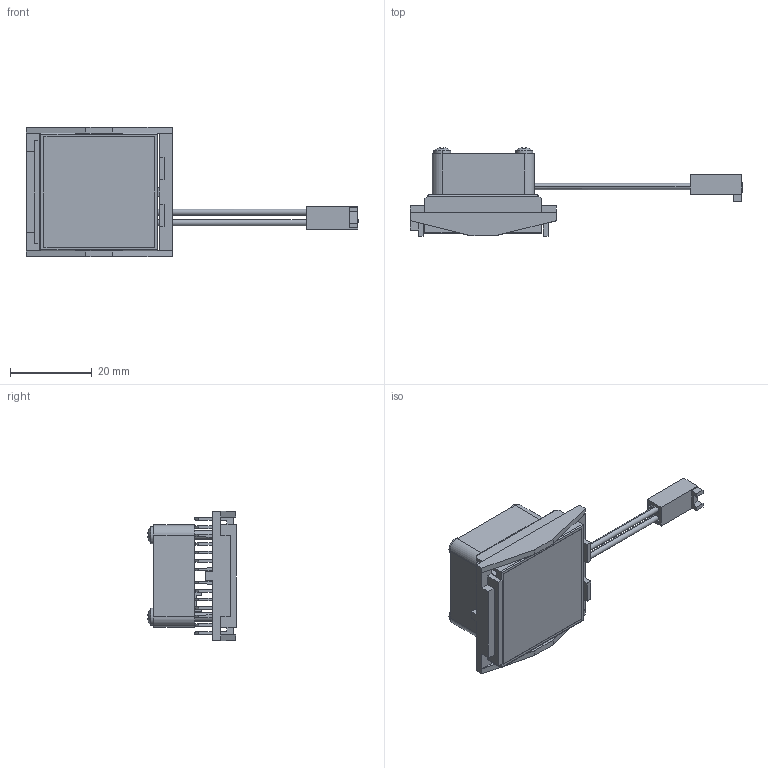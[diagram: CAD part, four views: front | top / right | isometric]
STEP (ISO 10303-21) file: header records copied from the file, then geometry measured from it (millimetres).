
FILE_DESCRIPTION (( 'STEP AP214' ), '1' );
FILE_NAME ('FJ29-1.7+O.STEP', '2023-03-22T00:36:13', ( '' ), ( '' ), 'SwSTEP 2.0', 'SolidWorks 2020', '' );
FILE_SCHEMA (( 'AUTOMOTIVE_DESIGN' ));
Length unit declared in the file: millimetre
Products named in the file (1): FJ29-1.7+O
Bounding box: 81.2 x 21.68 x 31.7 mm (x, y, z)
Volume: 8694.6 mm3; surface area: 16607.8 mm2
Topology: 8 solids, 8 shells, 391 faces, 1094 edges, 724 vertices
Faces by surface type: plane 291, cylinder 82, bspline 14, sphere 4
Entity records: 17207 total; most frequent: CARTESIAN_POINT 2760, ORIENTED_EDGE 2172, DIRECTION 1973, EDGE_CURVE 1086, LINE 789, VECTOR 789, VERTEX_POINT 720, AXIS2_PLACEMENT_3D 592
